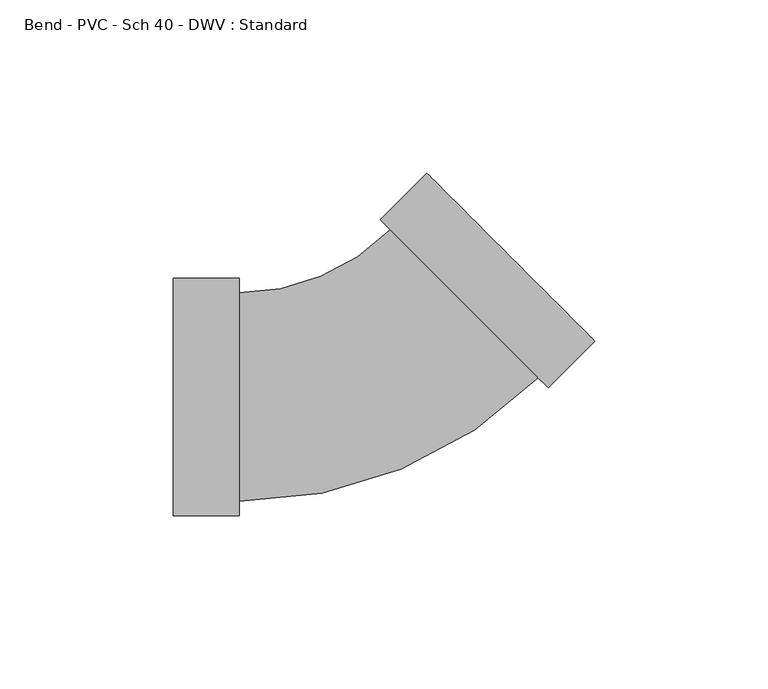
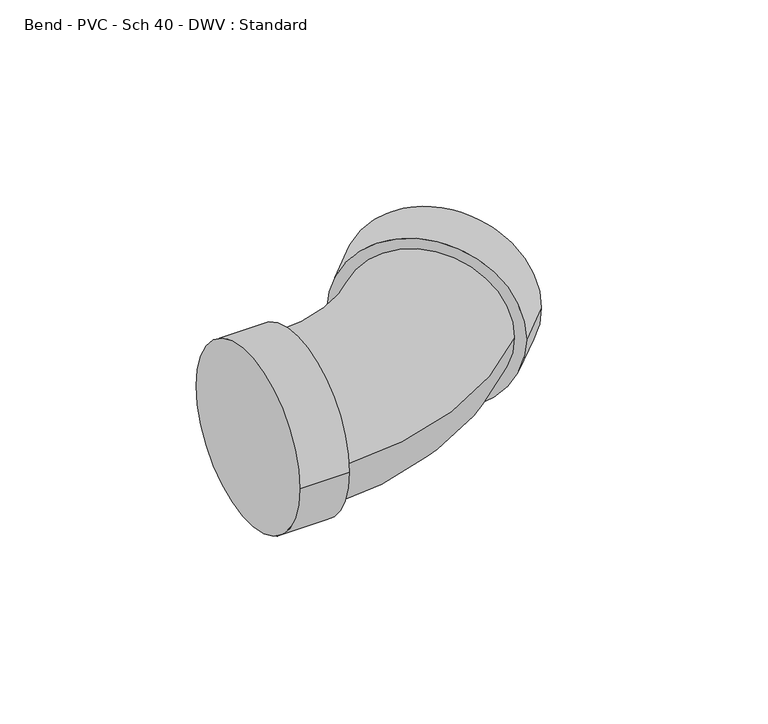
"""IFC4 building model written with IfcOpenShell, lengths in millimetres: pipe fitting geometry, Bend - PVC - Sch 40 - DWV : Standard."""

from ifc_helpers import new_model, si_unit, point, frame, origin, place, context, project, spatial, circle_curve, ellipse_curve, trimmed, source, transform, mapped, element, save
from ifc_brep_helpers import plane_surface, cylinder_surface, revolved_surface, advanced_brep


def bend_pvc_sch_40_dwv_standard_a07dc17c(model_context):
    return source(origin(), model_context, "Body", "AdvancedBrep", [
        advanced_brep(
        [(-57.15, -34.3154, 0.0), (-57.15, 34.3154, 0.0), (-38.1, -34.3154, 0.0), (-38.1, 34.3154, 0.0), (-38.1, -30.1625, 0.0), (-38.1, 30.1625, 0.0), (5.6130137, 48.2688355, 0.0), (48.2689178, 5.6123065, 0.0), (51.20544, 2.6757412, 0.0), (2.6764914, 51.2054008, 0.0), (64.6759229, 16.1460267, 0.0), (16.1469743, 64.6756863, 0.0)],
        [
            (0, 1, circle_curve(frame((-57.15, 0.0, 0.0), z_axis=(-1.0, 0.0, 0.0), x_axis=(0.0, 1.0, 0.0)), 34.3154)),
            (1, 0, circle_curve(frame((-57.15, 0.0, 0.0), z_axis=(-1.0, 0.0, 0.0), x_axis=(0.0, 1.0, 0.0)), 34.3154)),
            (2, 3, circle_curve(frame((-38.1, 0.0, 0.0), z_axis=(1.0, 0.0, 0.0), x_axis=(0.0, 1.0, 0.0)), 34.3154)),
            (3, 2, circle_curve(frame((-38.1, 0.0, 0.0), z_axis=(1.0, 0.0, 0.0), x_axis=(0.0, 1.0, 0.0)), 34.3154)),
            (4, 5, circle_curve(frame((-38.1, 0.0, 0.0), z_axis=(-1.0, 0.0, 0.0), x_axis=(0.0, 1.0, 0.0)), 30.1625)),
            (5, 4, circle_curve(frame((-38.1, 0.0, 0.0), z_axis=(-1.0, 0.0, 0.0), x_axis=(0.0, 1.0, 0.0)), 30.1625)),
            (0, 2),
            (3, 1),
            (6, 5, circle_curve(frame((-38.1, 91.9824896, 0.0), z_axis=(0.0, 0.0, -1.0), x_axis=(0.0, -1.0, 0.0)), 61.8199896)),
            (4, 7, circle_curve(frame((-38.1, 91.9824896, 0.0), z_axis=(0.0, 0.0, 1.0), x_axis=(0.0, -1.0, 0.0)), 122.1449896)),
            (7, 6, circle_curve(frame((26.9409657, 26.940571, 0.0), z_axis=(-0.7071119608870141, -0.7071016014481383, 0.0), x_axis=(-0.7071016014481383, 0.7071119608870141, 0.0)), 30.1625)),
            (6, 7, circle_curve(frame((26.9409657, 26.940571, 0.0), z_axis=(-0.7071119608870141, -0.7071016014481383, 0.0), x_axis=(-0.7071016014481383, 0.7071119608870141, 0.0)), 30.1625)),
            (8, 9, circle_curve(frame((26.9409657, 26.940571, 0.0), z_axis=(-0.7071119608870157, -0.7071016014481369, 0.0), x_axis=(-0.7071016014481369, 0.7071119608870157, 0.0)), 34.3154)),
            (9, 8, circle_curve(frame((26.9409657, 26.940571, 0.0), z_axis=(-0.7071119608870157, -0.7071016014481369, 0.0), x_axis=(-0.7071016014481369, 0.7071119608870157, 0.0)), 34.3154)),
            (10, 11, circle_curve(frame((40.4114486, 40.4108565, 0.0), z_axis=(0.7071119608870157, 0.7071016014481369, 0.0), x_axis=(-0.7071016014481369, 0.7071119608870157, 0.0)), 34.3154)),
            (11, 10, circle_curve(frame((40.4114486, 40.4108565, 0.0), z_axis=(0.7071119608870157, 0.7071016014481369, 0.0), x_axis=(-0.7071016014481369, 0.7071119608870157, 0.0)), 34.3154)),
            (8, 10),
            (11, 9),
        ],
        [
            plane_surface(frame((-57.15, 0.0, 0.0), z_axis=(-1.0, 0.0, 0.0), x_axis=(0.0, 0.0, 1.0))),
            plane_surface(frame((-38.1, 0.0, 0.0), z_axis=(1.0, 0.0, 0.0), x_axis=(0.0, 0.0, 1.0))),
            cylinder_surface(frame((-57.15, 0.0, 0.0), z_axis=(-1.0, 0.0, 0.0), x_axis=(0.0, 1.0, 0.0)), 34.3154),
            revolved_surface(trimmed(ellipse_curve(frame((-38.1, 0.0, 0.0), z_axis=(-1.0, 0.0, 0.0), x_axis=(0.0, 1.0, 0.0)), 30.1625, 30.1625), [point((-38.1, -30.1625, 0.0))], [point((-38.1, 30.1625, 0.0))], True, "CARTESIAN"), (-38.1, 91.9824896, 0.0), (0.0, 0.0, 1.0)),
            revolved_surface(trimmed(ellipse_curve(frame((-38.1, 0.0, 0.0), z_axis=(-1.0, 0.0, 0.0), x_axis=(0.0, 1.0, 0.0)), 30.1625, 30.1625), [point((-38.1, 30.1625, 0.0))], [point((-38.1, -30.1625, 0.0))], True, "CARTESIAN"), (-38.1, 91.9824896, 0.0), (0.0, 0.0, 1.0)),
            plane_surface(frame((26.9409657, 26.940571, 0.0), z_axis=(-0.7071119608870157, -0.7071016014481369, 0.0), x_axis=(0.0, 0.0, 1.0))),
            plane_surface(frame((40.4114486, 40.4108565, 0.0), z_axis=(0.7071119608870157, 0.7071016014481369, 0.0), x_axis=(0.0, 0.0, 1.0))),
            cylinder_surface(frame((26.9409657, 26.940571, 0.0), z_axis=(-0.7071119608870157, -0.7071016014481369, 0.0), x_axis=(-0.7071016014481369, 0.7071119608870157, 0.0)), 34.3154),
        ],
        [
            (0, [[1, 2]]),
            (1, [[3, 4], [5, 6]]),
            (2, [[-1, 7, -4, 8]]),
            (2, [[-2, -8, -3, -7]]),
            (3, [[9, -5, 10, 11]]),
            (4, [[-9, 12, -10, -6]]),
            (5, [[13, 14], [-11, -12]]),
            (6, [[15, 16]]),
            (7, [[-13, 17, -16, 18]]),
            (7, [[-14, -18, -15, -17]]),
        ],
    ),
    ])


if __name__ == "__main__":
    model = new_model("IFC4")
    model_context = context("Model", 3, world=origin())
    ifc_project = project(units=[si_unit("LENGTHUNIT", "METRE", prefix="MILLI")], contexts=[model_context])
    site = spatial("IfcSite", under=ifc_project)
    building = spatial("IfcBuilding", under=site)
    placement = place(None, origin())
    bend_pvc_sch_40_dwv_standard_shape = bend_pvc_sch_40_dwv_standard_a07dc17c(model_context)
    element("IfcPipeFitting", 1, ObjectType="Bend - PVC - Sch 40 - DWV : Standard", at=placement, inside=building, context=model_context, shape_type="MappedRepresentation", body=[
        mapped(bend_pvc_sch_40_dwv_standard_shape, transform((0.0, 0.0, 0.0), x_axis=(1.0, 0.0, 0.0), y_axis=(0.0, 1.0, 0.0), z_axis=(0.0, 0.0, 1.0))),
    ])
    save(model, "model.ifc")
